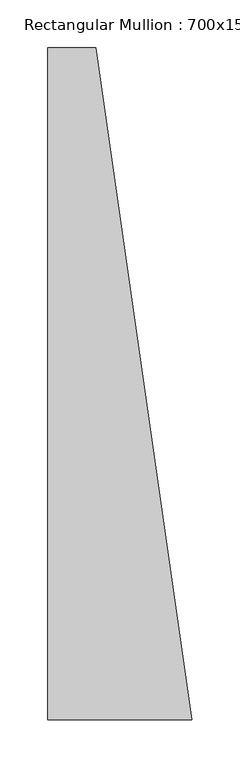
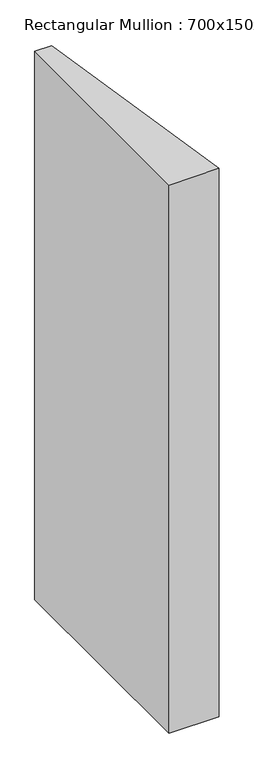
"""IFC4 building model written with IfcOpenShell, lengths in millimetres: member geometry, Rectangular Mullion : 700x150x50mm."""

from ifc_helpers import new_model, si_unit, frame, origin, place, context, project, spatial, polyline, outline, extrude, source, transform, mapped, element, save


def rectangular_mullion_700x150x50mm_137b1d0d(model_context):
    return source(origin(), model_context, "Body", "SweptSolid", [
        extrude(outline(polyline([(-150.0, -350.0), (-150.0, 350.0), (-100.0, 350.0), (0.0, -350.0), (-150.0, -350.0)])), frame((0.0, 0.0, -1741.6648236), z_axis=(0.0, 0.0, 1.0), x_axis=(1.0, 0.0, 0.0)), (0.0, 0.0, 1.0), 1741.6648236),
    ])


if __name__ == "__main__":
    model = new_model("IFC4")
    model_context = context("Model", 3, world=origin())
    ifc_project = project(units=[si_unit("LENGTHUNIT", "METRE", prefix="MILLI")], contexts=[model_context])
    site = spatial("IfcSite", under=ifc_project)
    building = spatial("IfcBuilding", under=site)
    placement = place(None, origin())
    rectangular_mullion_700x150x50mm_shape = rectangular_mullion_700x150x50mm_137b1d0d(model_context)
    element("IfcMember", 1, ObjectType="Rectangular Mullion : 700x150x50mm", at=placement, inside=building, context=model_context, shape_type="MappedRepresentation", body=[
        mapped(rectangular_mullion_700x150x50mm_shape, transform((0.0, 0.0, 0.0), x_axis=(1.0, 0.0, 0.0), y_axis=(0.0, 1.0, 0.0), z_axis=(0.0, 0.0, 1.0))),
    ])
    save(model, "model.ifc")
